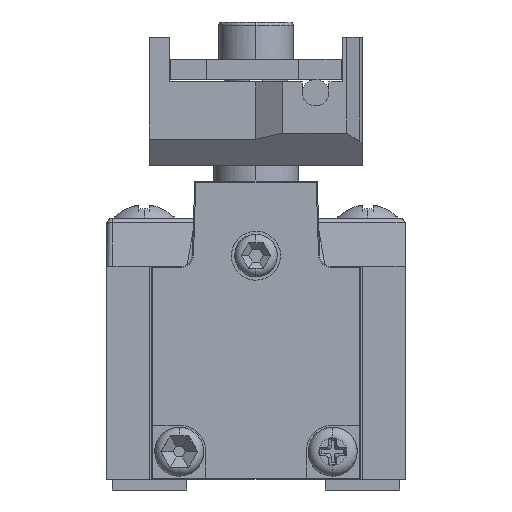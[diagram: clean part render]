
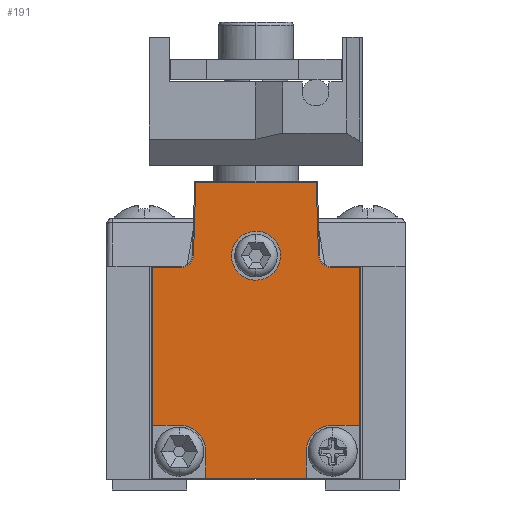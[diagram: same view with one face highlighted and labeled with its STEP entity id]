
A CAD part, left-side view. The second image highlights one B-rep face of the part: STEP entity #191.
In plain terms, the highlighted planar face has unit normal (-1, 0, 0).
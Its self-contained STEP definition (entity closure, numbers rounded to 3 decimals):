
#191=ADVANCED_FACE('',(#1736,#1738),#1740,.T.);
#1736=FACE_BOUND('',#1737,.T.);
#1737=EDGE_LOOP('',(#4490,#4491));
#1738=FACE_OUTER_BOUND('',#1739,.T.);
#1739=EDGE_LOOP('',(#4492,#4493,#4494,#4495,#4496,#4497,#4498,#4499,#4500,#4501,
#4502,#4503,#4504,#4505,#4506,#4507));
#1740=PLANE('',#1741);
#1741=AXIS2_PLACEMENT_3D('',#1742,#1743,#1744);
#1742=CARTESIAN_POINT('',(-20.,0.,0.));
#1743=DIRECTION('',(-1.,0.,0.));
#1744=DIRECTION('',(0.,0.,-1.));
#4490=ORIENTED_EDGE('',*,*,#6466,.T.);
#4491=ORIENTED_EDGE('',*,*,#6467,.T.);
#4492=ORIENTED_EDGE('',*,*,#6468,.F.);
#4493=ORIENTED_EDGE('',*,*,#6469,.T.);
#4494=ORIENTED_EDGE('',*,*,#6357,.T.);
#4495=ORIENTED_EDGE('',*,*,#6470,.T.);
#4496=ORIENTED_EDGE('',*,*,#6471,.F.);
#4497=ORIENTED_EDGE('',*,*,#6472,.T.);
#4498=ORIENTED_EDGE('',*,*,#6351,.T.);
#4499=ORIENTED_EDGE('',*,*,#6346,.T.);
#4500=ORIENTED_EDGE('',*,*,#6344,.T.);
#4501=ORIENTED_EDGE('',*,*,#6342,.T.);
#4502=ORIENTED_EDGE('',*,*,#6340,.T.);
#4503=ORIENTED_EDGE('',*,*,#6366,.T.);
#4504=ORIENTED_EDGE('',*,*,#6364,.T.);
#4505=ORIENTED_EDGE('',*,*,#6362,.T.);
#4506=ORIENTED_EDGE('',*,*,#6359,.T.);
#4507=ORIENTED_EDGE('',*,*,#6473,.T.);
#6340=EDGE_CURVE('',#7448,#7446,#7449,.T.);
#6342=EDGE_CURVE('',#7451,#7448,#7452,.T.);
#6344=EDGE_CURVE('',#7454,#7451,#7455,.T.);
#6346=EDGE_CURVE('',#7457,#7454,#7458,.T.);
#6351=EDGE_CURVE('',#7460,#7457,#7466,.T.);
#6357=EDGE_CURVE('',#7467,#7475,#7477,.T.);
#6359=EDGE_CURVE('',#7481,#7479,#7482,.T.);
#6362=EDGE_CURVE('',#7485,#7481,#7486,.T.);
#6364=EDGE_CURVE('',#7488,#7485,#7489,.T.);
#6366=EDGE_CURVE('',#7446,#7488,#7491,.T.);
#6466=EDGE_CURVE('',#7649,#7650,#7651,.F.);
#6467=EDGE_CURVE('',#7650,#7649,#7652,.F.);
#6468=EDGE_CURVE('',#7653,#7654,#7655,.T.);
#6469=EDGE_CURVE('',#7653,#7467,#7656,.F.);
#6470=EDGE_CURVE('',#7475,#7657,#7658,.F.);
#6471=EDGE_CURVE('',#7659,#7657,#7660,.T.);
#6472=EDGE_CURVE('',#7659,#7460,#7661,.F.);
#6473=EDGE_CURVE('',#7479,#7654,#7662,.F.);
#7446=VERTEX_POINT('',#9496);
#7448=VERTEX_POINT('',#9500);
#7449=LINE('',#9501,#9502);
#7451=VERTEX_POINT('',#9507);
#7452=LINE('',#9508,#9509);
#7454=VERTEX_POINT('',#9514);
#7455=CIRCLE('',#9515,1.1);
#7457=VERTEX_POINT('',#9522);
#7458=LINE('',#9523,#9524);
#7460=VERTEX_POINT('',#9529);
#7466=LINE('',#9541,#9542);
#7467=VERTEX_POINT('',#9544);
#7475=VERTEX_POINT('',#9560);
#7477=LINE('',#9564,#9565);
#7479=VERTEX_POINT('',#9568);
#7481=VERTEX_POINT('',#9572);
#7482=LINE('',#9573,#9574);
#7485=VERTEX_POINT('',#9582);
#7486=LINE('',#9583,#9584);
#7488=VERTEX_POINT('',#9589);
#7489=CIRCLE('',#9590,1.1);
#7491=LINE('',#9597,#9598);
#7649=VERTEX_POINT('',#9995);
#7650=VERTEX_POINT('',#9996);
#7651=(BOUNDED_CURVE()B_SPLINE_CURVE(3,
(#9997,#9998,#9999,#10000),
.UNSPECIFIED.,.F.,.F.)B_SPLINE_CURVE_WITH_KNOTS((4,4),
(0.,1.),
.UNSPECIFIED.)CURVE()GEOMETRIC_REPRESENTATION_ITEM()RATIONAL_B_SPLINE_CURVE((1.,
0.333,0.333,1.))REPRESENTATION_ITEM(''));
#7652=(BOUNDED_CURVE()B_SPLINE_CURVE(3,
(#10001,#10002,#10003,#10004),
.UNSPECIFIED.,.F.,.F.)B_SPLINE_CURVE_WITH_KNOTS((4,4),
(0.,1.),
.UNSPECIFIED.)CURVE()GEOMETRIC_REPRESENTATION_ITEM()RATIONAL_B_SPLINE_CURVE((1.,
0.333,0.333,1.))REPRESENTATION_ITEM(''));
#7653=VERTEX_POINT('',#10005);
#7654=VERTEX_POINT('',#10006);
#7655=CIRCLE('',#10007,2.5);
#7656=LINE('',#10011,#10012);
#7657=VERTEX_POINT('',#10014);
#7658=LINE('',#10015,#10016);
#7659=VERTEX_POINT('',#10018);
#7660=CIRCLE('',#10019,2.5);
#7661=LINE('',#10023,#10024);
#7662=LINE('',#10026,#10027);
#9496=CARTESIAN_POINT('',(-20.,5.653,27.9));
#9500=CARTESIAN_POINT('',(-20.,-5.653,27.9));
#9501=CARTESIAN_POINT('',(-20.,-5.653,27.9));
#9502=VECTOR('',#9503,1.);
#9503=DIRECTION('',(0.,1.,0.));
#9507=CARTESIAN_POINT('',(-20.,-5.87,20.966));
#9508=CARTESIAN_POINT('',(-20.,-5.87,20.966));
#9509=VECTOR('',#9510,1.);
#9510=DIRECTION('',(0.,0.031,1.));
#9514=CARTESIAN_POINT('',(-20.,-6.969,19.9));
#9515=AXIS2_PLACEMENT_3D('',#9516,#9517,#9518);
#9516=CARTESIAN_POINT('',(-20.,-6.969,21.));
#9517=DIRECTION('',(1.,0.,0.));
#9518=DIRECTION('',(0.,0.,-1.));
#9522=CARTESIAN_POINT('',(-20.,-9.7,19.9));
#9523=CARTESIAN_POINT('',(-20.,-9.7,19.9));
#9524=VECTOR('',#9525,1.);
#9525=DIRECTION('',(0.,1.,0.));
#9529=CARTESIAN_POINT('',(-20.,-9.7,5.1));
#9541=CARTESIAN_POINT('',(-20.,-9.7,5.1));
#9542=VECTOR('',#9543,1.);
#9543=DIRECTION('',(0.,0.,1.));
#9544=CARTESIAN_POINT('',(-20.,4.7,0.1));
#9560=CARTESIAN_POINT('',(-20.,-4.7,0.1));
#9564=CARTESIAN_POINT('',(-20.,4.7,0.1));
#9565=VECTOR('',#9566,1.);
#9566=DIRECTION('',(0.,-1.,0.));
#9568=CARTESIAN_POINT('',(-20.,9.7,5.1));
#9572=CARTESIAN_POINT('',(-20.,9.7,19.9));
#9573=CARTESIAN_POINT('',(-20.,9.7,19.9));
#9574=VECTOR('',#9575,1.);
#9575=DIRECTION('',(0.,0.,-1.));
#9582=CARTESIAN_POINT('',(-20.,6.969,19.9));
#9583=CARTESIAN_POINT('',(-20.,6.969,19.9));
#9584=VECTOR('',#9585,1.);
#9585=DIRECTION('',(0.,1.,0.));
#9589=CARTESIAN_POINT('',(-20.,5.87,20.966));
#9590=AXIS2_PLACEMENT_3D('',#9591,#9592,#9593);
#9591=CARTESIAN_POINT('',(-20.,6.969,21.));
#9592=DIRECTION('',(1.,0.,0.));
#9593=DIRECTION('',(0.,0.,-1.));
#9597=CARTESIAN_POINT('',(-20.,5.653,27.9));
#9598=VECTOR('',#9599,1.);
#9599=DIRECTION('',(0.,0.031,-1.));
#9995=CARTESIAN_POINT('',(-20.,0.,18.7));
#9996=CARTESIAN_POINT('',(-20.,0.,23.3));
#9997=CARTESIAN_POINT('',(-20.,0.,23.3));
#9998=CARTESIAN_POINT('',(-20.,4.6,23.3));
#9999=CARTESIAN_POINT('',(-20.,4.6,18.7));
#10000=CARTESIAN_POINT('',(-20.,0.,18.7));
#10001=CARTESIAN_POINT('',(-20.,0.,18.7));
#10002=CARTESIAN_POINT('',(-20.,-4.6,18.7));
#10003=CARTESIAN_POINT('',(-20.,-4.6,23.3));
#10004=CARTESIAN_POINT('',(-20.,0.,23.3));
#10005=CARTESIAN_POINT('',(-20.,4.7,2.6));
#10006=CARTESIAN_POINT('',(-20.,7.2,5.1));
#10007=AXIS2_PLACEMENT_3D('',#10008,#10009,#10010);
#10008=CARTESIAN_POINT('',(-20.,7.2,2.6));
#10009=DIRECTION('',(-1.,0.,0.));
#10010=DIRECTION('',(0.,0.,-1.));
#10011=CARTESIAN_POINT('',(-20.,4.7,0.1));
#10012=VECTOR('',#10013,1.);
#10013=DIRECTION('',(0.,0.,1.));
#10014=CARTESIAN_POINT('',(-20.,-4.7,2.6));
#10015=CARTESIAN_POINT('',(-20.,-4.7,2.6));
#10016=VECTOR('',#10017,1.);
#10017=DIRECTION('',(0.,0.,-1.));
#10018=CARTESIAN_POINT('',(-20.,-7.2,5.1));
#10019=AXIS2_PLACEMENT_3D('',#10020,#10021,#10022);
#10020=CARTESIAN_POINT('',(-20.,-7.2,2.6));
#10021=DIRECTION('',(-1.,0.,0.));
#10022=DIRECTION('',(0.,0.,-1.));
#10023=CARTESIAN_POINT('',(-20.,-9.7,5.1));
#10024=VECTOR('',#10025,1.);
#10025=DIRECTION('',(0.,1.,0.));
#10026=CARTESIAN_POINT('',(-20.,7.2,5.1));
#10027=VECTOR('',#10028,1.);
#10028=DIRECTION('',(0.,1.,0.));
